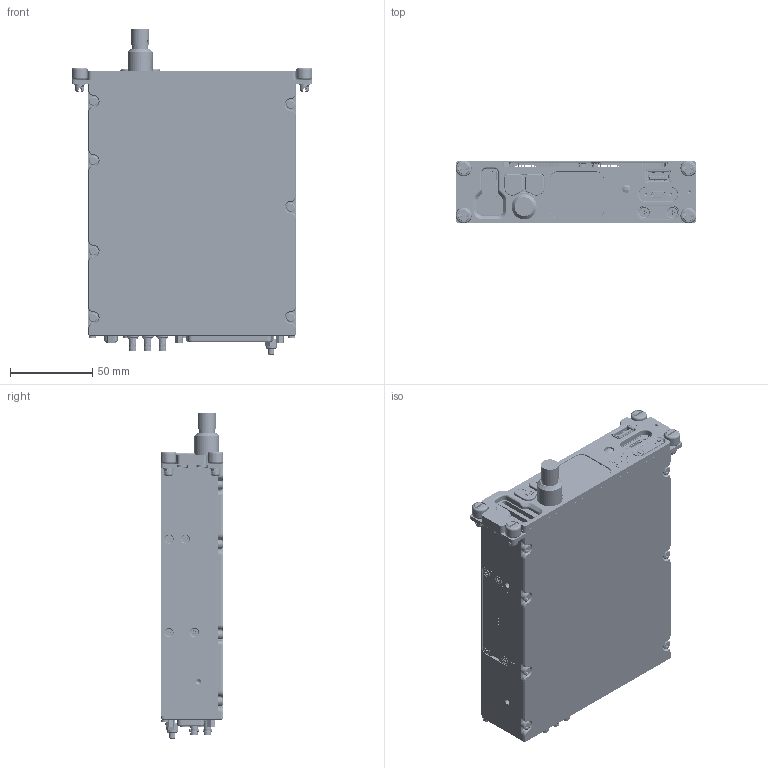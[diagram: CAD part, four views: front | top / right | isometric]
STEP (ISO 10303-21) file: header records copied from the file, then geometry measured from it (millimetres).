
FILE_DESCRIPTION (( 'STEP AP203' ), '1' );
FILE_NAME ('012-0031.STEP', '2025-11-04T22:28:39', ( '' ), ( '' ), 'SwSTEP 2.0', 'SolidWorks 2025', '' );
FILE_SCHEMA (( 'CONFIG_CONTROL_DESIGN' ));
Length unit declared in the file: millimetre
Products named in the file (77): 012-5151_ALPCB_-_NX_HEAT_SPREADER; 900-1697; 002-63340; CONN_FH34SRJ-10S-0.5SH(50)_CMP-005-00114-1; 900-1709; 012-4121; 900-1380; 900-1333; 900-1420; SOD-523_DYA0002A_CMP-039-00028-3; M7 Encoder Nut^012-0033; 012-4133; 900-1712; 002-6511; 900-1454; 012-4101; 002-63687; 900-1084; NUT HD-BNC^012-0032; 012-5148_simplified part; 012-4023; 012-4132; 002-63316; 012-5149; 012-0031; 002-63582; 002-63695; 900-1748; 000-4125-M3-121; 000-4051-M9-124; 002-63356; 900-1553; 012-4137; 012-4136; 012-0032; 012-0033; 900-1226; 012-4131; 002-63315; CHIP_0402_RES_CMP-039-00026-1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
Assembly tree (282 placements, depth 3):
  002-6511
  012-0031
    002-63687^012-0031
    002-63695  x2
    002-63582
    012-5149
    012-5150
    002-63316
    900-1697
    012-4112
    012-4113
    012-4138
    012-4132
    012-4121
    012-4072
    012-2009-EN
      012-2009_with Engraving
    012-4101
    012-4133
    900-1226  x10
    900-1553  x23
    002-63454  x2
    900-1696_SHCS M2.5 x  4  x4
    900-1094_NN M4 SS
    900-1084  x2
    900-1333
    900-1454
    012-4136
    900-1761
    900-1420  x7
    002-63696  x2
    900-1380  x2
    900-1709  x5
    900-1713  x6
    900-1712  x4
    900-1748  x2
    012-0032
      002-63504  x4
      012-4073
      012-5120
      012-5148_simplified part
      NUT HD-BNC^012-0032  x6
    012-0033
      002-61112
      002-63509  x2
      002-63315
      002-63356  x16
      002-63221  x4
      900-1553  x3
      RAW-012-5110
      M7 Encoder Nut^012-0033
      012-4137
      002-63340
      012-4023
      000-4126-M1-20
      000-4124-M6-9-9
      000-4124-M6-7-4
      000-4051-M5-4^012-0033  x2
    012-0034
      002-63635  x4
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Bounding box: 146.18 x 38.23 x 198.38 mm (x, y, z)
Volume: 282781.5 mm3; surface area: 401640 mm2
Topology: 582 solids, 584 shells, 24250 faces, 63525 edges, 41007 vertices
Faces by surface type: plane 12917, cylinder 6039, cone 2472, bspline 1679, torus 1097, sphere 46
Entity records: 711717 total; most frequent: CARTESIAN_POINT 198200, ORIENTED_EDGE 107626, DIRECTION 100141, EDGE_CURVE 53813, VERTEX_POINT 34813, AXIS2_PLACEMENT_3D 34046, LINE 32049, VECTOR 32049
